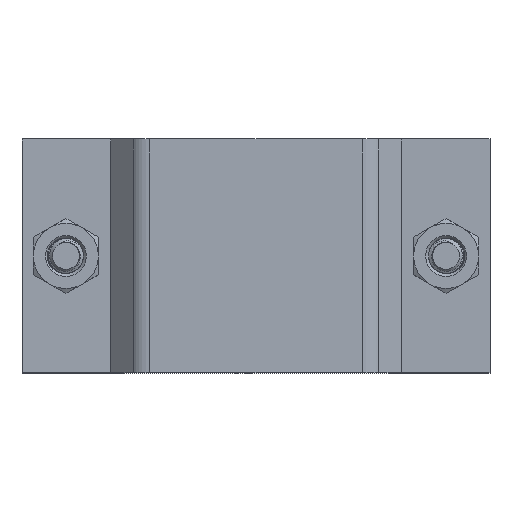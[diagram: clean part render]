
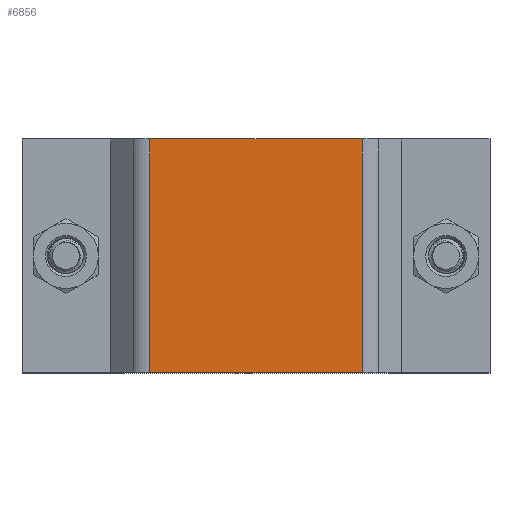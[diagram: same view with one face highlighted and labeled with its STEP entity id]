
A CAD part, top view. The second image highlights one B-rep face of the part: STEP entity #6856.
In plain terms, the highlighted planar face has unit normal (0, 0, 1).
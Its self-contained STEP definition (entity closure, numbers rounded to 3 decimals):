
#437=PLANE('',#7334);
#972=FACE_OUTER_BOUND('',#1388,.T.);
#1388=EDGE_LOOP('',(#6361,#6362,#6363,#6364));
#2139=LINE('',#29263,#2583);
#2140=LINE('',#29266,#2584);
#2141=LINE('',#29268,#2585);
#2142=LINE('',#29269,#2586);
#2583=VECTOR('',#8580,10.);
#2584=VECTOR('',#8583,10.);
#2585=VECTOR('',#8584,10.);
#2586=VECTOR('',#8585,10.);
#3350=VERTEX_POINT('',#29259);
#3351=VERTEX_POINT('',#29261);
#3352=VERTEX_POINT('',#29265);
#3353=VERTEX_POINT('',#29267);
#4364=EDGE_CURVE('',#3350,#3351,#2139,.T.);
#4365=EDGE_CURVE('',#3350,#3352,#2140,.T.);
#4366=EDGE_CURVE('',#3353,#3351,#2141,.T.);
#4367=EDGE_CURVE('',#3352,#3353,#2142,.T.);
#6361=ORIENTED_EDGE('',*,*,#4365,.F.);
#6362=ORIENTED_EDGE('',*,*,#4364,.T.);
#6363=ORIENTED_EDGE('',*,*,#4366,.F.);
#6364=ORIENTED_EDGE('',*,*,#4367,.F.);
#6856=ADVANCED_FACE('',(#972),#437,.T.);
#7334=AXIS2_PLACEMENT_3D('',#29264,#8581,#8582);
#8580=DIRECTION('',(0.,1.,0.));
#8581=DIRECTION('center_axis',(0.,0.,1.));
#8582=DIRECTION('ref_axis',(1.,0.,0.));
#8583=DIRECTION('',(-1.,0.,0.));
#8584=DIRECTION('',(1.,0.,0.));
#8585=DIRECTION('',(0.,1.,0.));
#29259=CARTESIAN_POINT('',(58.172,0.,9.));
#29261=CARTESIAN_POINT('',(58.172,40.,9.));
#29263=CARTESIAN_POINT('',(58.172,0.,9.));
#29264=CARTESIAN_POINT('Origin',(21.828,0.,9.));
#29265=CARTESIAN_POINT('',(21.828,0.,9.));
#29266=CARTESIAN_POINT('',(58.172,0.,9.));
#29267=CARTESIAN_POINT('',(21.828,40.,9.));
#29268=CARTESIAN_POINT('',(58.172,40.,9.));
#29269=CARTESIAN_POINT('',(21.828,0.,9.));
